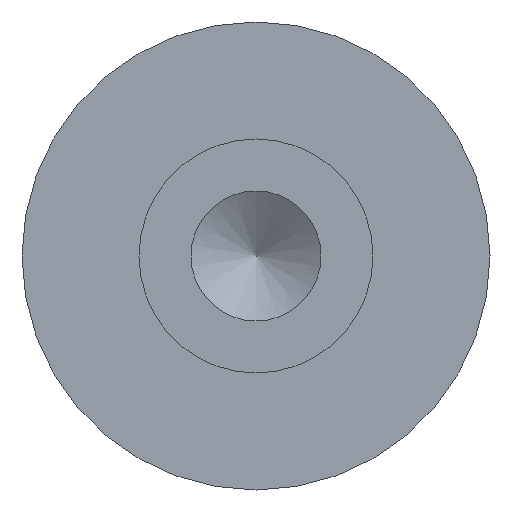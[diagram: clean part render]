
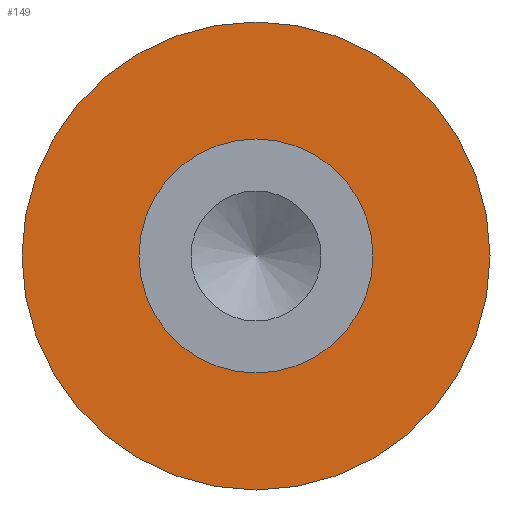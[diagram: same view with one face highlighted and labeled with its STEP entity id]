
A CAD part, front view. The second image highlights one B-rep face of the part: STEP entity #149.
In plain terms, the highlighted planar face has unit normal (0, -1, 0).
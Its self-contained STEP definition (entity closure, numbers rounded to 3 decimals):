
#13 = DIRECTION ( 'NONE',  ( 0., 0., 1. ) ) ;
#18 = DIRECTION ( 'NONE',  ( 0., 1., 0. ) ) ;
#20 = PLANE ( 'NONE',  #76 ) ;
#21 = CARTESIAN_POINT ( 'NONE',  ( 0., 4.5, 9. ) ) ;
#22 = VERTEX_POINT ( 'NONE', #21 ) ;
#23 = AXIS2_PLACEMENT_3D ( 'NONE', #39, #106, #108 ) ;
#39 = CARTESIAN_POINT ( 'NONE',  ( 0., 4.5, 0. ) ) ;
#41 = CARTESIAN_POINT ( 'NONE',  ( 0., 4.5, 4.5 ) ) ;
#44 = FACE_BOUND ( 'NONE', #118, .T. ) ;
#46 = AXIS2_PLACEMENT_3D ( 'NONE', #90, #87, #13 ) ;
#53 = CIRCLE ( 'NONE', #23, 9. ) ;
#55 = EDGE_CURVE ( 'NONE', #22, #22, #53, .T. ) ;
#65 = EDGE_LOOP ( 'NONE', ( #74 ) ) ;
#74 = ORIENTED_EDGE ( 'NONE', *, *, #55, .F. ) ;
#76 = AXIS2_PLACEMENT_3D ( 'NONE', #148, #18, #109 ) ;
#87 = DIRECTION ( 'NONE',  ( 0., 1., 0. ) ) ;
#90 = CARTESIAN_POINT ( 'NONE',  ( 0., 4.5, 0. ) ) ;
#98 = EDGE_CURVE ( 'NONE', #159, #159, #122, .T. ) ;
#106 = DIRECTION ( 'NONE',  ( 0., 1., 0. ) ) ;
#108 = DIRECTION ( 'NONE',  ( 0., 0., 1. ) ) ;
#109 = DIRECTION ( 'NONE',  ( 0., 0., 1. ) ) ;
#116 = ORIENTED_EDGE ( 'NONE', *, *, #98, .T. ) ;
#118 = EDGE_LOOP ( 'NONE', ( #116 ) ) ;
#122 = CIRCLE ( 'NONE', #46, 4.5 ) ;
#148 = CARTESIAN_POINT ( 'NONE',  ( 0., 4.5, -4.5 ) ) ;
#149 = ADVANCED_FACE ( 'NONE', ( #158, #44 ), #20, .F. ) ;
#158 = FACE_OUTER_BOUND ( 'NONE', #65, .T. ) ;
#159 = VERTEX_POINT ( 'NONE', #41 ) ;
